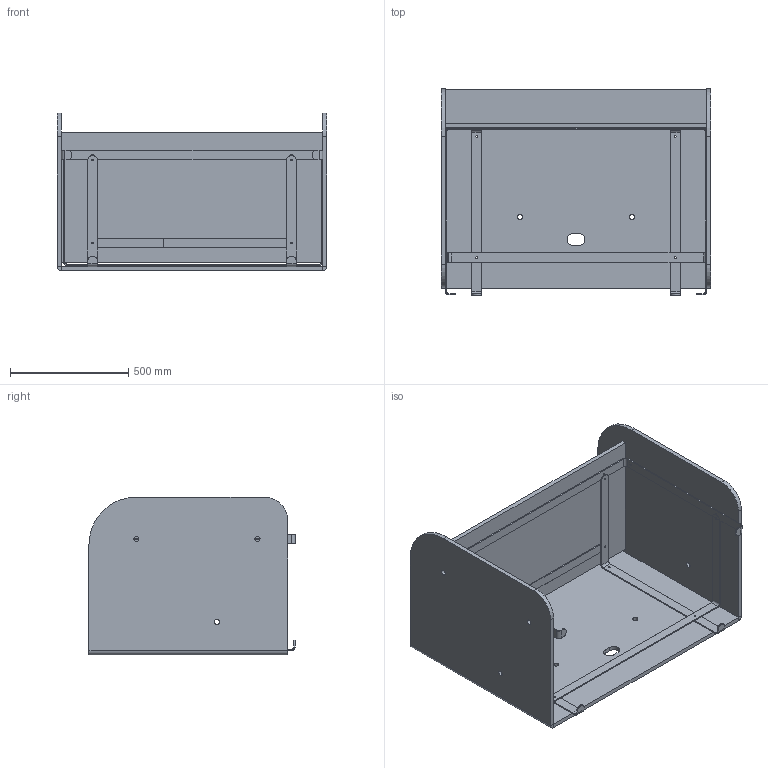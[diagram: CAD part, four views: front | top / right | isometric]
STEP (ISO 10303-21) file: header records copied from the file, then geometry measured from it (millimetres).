
FILE_DESCRIPTION (( 'STEP AP214' ), '1' );
FILE_NAME ('NIK_PUPI_BIG01.STEP', '2021-11-29T08:46:02', ( '' ), ( '' ), 'SwSTEP 2.0', 'SolidWorks 2019', '' );
FILE_SCHEMA (( 'AUTOMOTIVE_DESIGN' ));
Length unit declared in the file: millimetre
Products named in the file (7): EDE_SUP_01_01; EDE_SUP_01; SLC_T_02; 1104x550; NIK_PUPI_BIG01; EDE_SUP_03; EDE_SUP_01_02
Assembly tree (7 placements, depth 2):
  NIK_PUPI_BIG01
    SLC_T_02
    EDE_SUP_01_01
    EDE_SUP_01
    EDE_SUP_03  x2
    EDE_SUP_01_02
    1104x550
Bounding box: 1140 x 870.3 x 666.91 mm (x, y, z)
Volume: 49323434.6 mm3; surface area: 6137979.9 mm2
Topology: 7 solids, 7 shells, 221 faces, 525 edges, 318 vertices
Faces by surface type: plane 109, cylinder 104, bspline 8
Entity records: 5866 total; most frequent: CARTESIAN_POINT 1085, DIRECTION 970, ORIENTED_EDGE 902, EDGE_CURVE 451, AXIS2_PLACEMENT_3D 367, VERTEX_POINT 274, EDGE_LOOP 247, LINE 236
